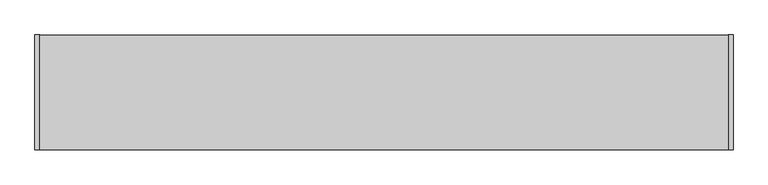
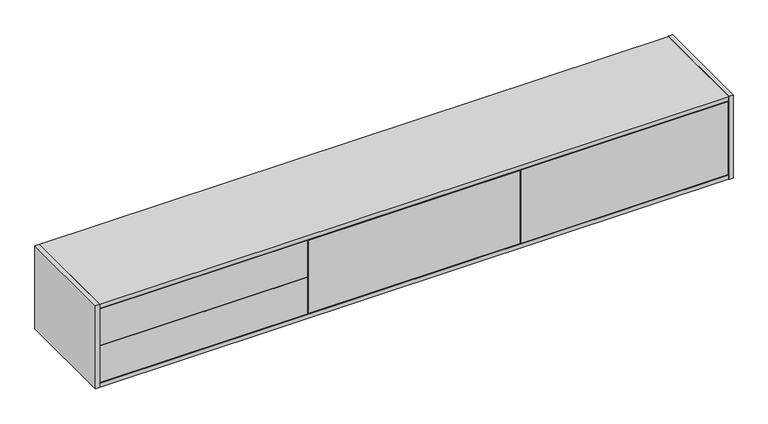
"""IFC4 building model written with IfcOpenShell, lengths in millimetres: furniture geometry, Geiger_GeigerOneCasegoods_HangingStorageThreeSections : TFL 108Wx18Dx14.875H."""

from ifc_helpers import new_model, si_unit, frame, origin, origin_with_axes, place, context, project, spatial, polyline, outline, extrude, source, transform, mapped, element, save


def furniture_86b5e4a5(model_context):
    return source(origin(), model_context, "Body", "SweptSolid", [
        extrude(outline(polyline([(2718.9881423, -431.1), (2718.9881423, -450.1), (1827.5059289, -450.1), (1827.5059289, -431.1), (2718.9881423, -431.1)])), frame((0.0, 0.0, 22.5118577), z_axis=(0.0, 0.0, 1.0), x_axis=(1.0, 0.0, 0.0)), (0.0, 0.0, 1.0), 332.8078846),
        extrude(outline(polyline([(1824.4940711, -431.1), (1824.4940711, -450.1), (914.5059289, -450.1), (914.5059289, -431.1), (1824.4940711, -431.1)])), frame((0.0, 0.0, 22.5118577), z_axis=(0.0, 0.0, 1.0), x_axis=(1.0, 0.0, 0.0)), (0.0, 0.0, 1.0), 332.8078846),
        extrude(outline(polyline([(911.4940711, -431.1), (911.4940711, -450.1), (22.0118577, -450.1), (22.0118577, -431.1), (911.4940711, -431.1)])), frame((0.0, 0.0, 22.5118577), z_axis=(0.0, 0.0, 1.0), x_axis=(1.0, 0.0, 0.0)), (0.0, 0.0, 1.0), 165.4822134),
        extrude(outline(polyline([(911.4940711, -431.1), (911.4940711, -450.1), (22.0118577, -450.1), (22.0118577, -431.1), (911.4940711, -431.1)])), frame((0.0, 0.0, 191.0059289), z_axis=(0.0, 0.0, 1.0), x_axis=(1.0, 0.0, 0.0)), (0.0, 0.0, 1.0), 164.3138134),
        extrude(outline(polyline([(932.0, -435.0), (913.0, -435.0), (913.0, -38.5), (932.0, -38.5), (932.0, -435.0)])), frame((0.0, 0.0, 19.5), z_axis=(0.0, 0.0, 1.0), x_axis=(1.0, 0.0, 0.0)), (0.0, 0.0, 1.0), 338.8316),
        extrude(outline(polyline([(1827.9902, -435.0), (1808.9902, -435.0), (1808.9902, -38.5), (1827.9902, -38.5), (1827.9902, -435.0)])), frame((0.0, 0.0, 19.5), z_axis=(0.0, 0.0, 1.0), x_axis=(1.0, 0.0, 0.0)), (0.0, 0.0, 1.0), 338.8316),
        extrude(outline(polyline([(913.0, -435.0), (894.0, -435.0), (894.0, -38.5), (913.0, -38.5), (913.0, -435.0)])), frame((0.0, 0.0, 19.5), z_axis=(0.0, 0.0, 1.0), x_axis=(1.0, 0.0, 0.0)), (0.0, 0.0, 1.0), 338.8316),
        extrude(outline(polyline([(1846.9902, -435.0), (1827.9902, -435.0), (1827.9902, -38.5), (1846.9902, -38.5), (1846.9902, -435.0)])), frame((0.0, 0.0, 19.5), z_axis=(0.0, 0.0, 1.0), x_axis=(1.0, 0.0, 0.0)), (0.0, 0.0, 1.0), 338.8316),
        extrude(outline(polyline([(2721.9902, -20.0), (2721.9902, -32.5), (2727.9902, -32.5), (2727.9902, -38.5), (13.0, -38.5), (13.0, -32.5), (19.0000031, -32.5), (19.0000031, -20.0), (2721.9902, -20.0)])), frame((0.0, 0.0, 13.5), z_axis=(0.0, 0.0, 1.0), x_axis=(1.0, 0.0, 0.0)), (0.0, 0.0, 1.0), 358.3316),
        extrude(outline(polyline([(2721.9902, -0.5), (2721.9902, -19.5), (19.0000031, -19.5), (19.0000031, -0.5), (2721.9902, -0.5)])), frame((0.0, 0.0, 19.5), z_axis=(0.0, 0.0, 1.0), x_axis=(1.0, 0.0, 0.0)), (0.0, 0.0, 1.0), 83.0),
        extrude(outline(polyline([(2721.9902, -450.1), (19.0000031, -450.1), (19.0000031, -0.5), (2721.9902, -0.5), (2721.9902, -450.1)])), frame((0.0, 0.0, 358.3316), z_axis=(0.0, 0.0, 1.0), x_axis=(1.0, 0.0, 0.0)), (0.0, 0.0, 1.0), 19.0),
        extrude(outline(polyline([(2721.9902, -450.1), (19.0000031, -450.1), (19.0000031, -0.5), (2721.9902, -0.5), (2721.9902, -450.1)])), frame((0.0, 0.0, 0.5), z_axis=(0.0, 0.0, 1.0), x_axis=(1.0, 0.0, 0.0)), (0.0, 0.0, 1.0), 19.0),
        extrude(outline(polyline([(19.0000031, -450.6), (0.0, -450.6), (0.0, 0.0), (19.0000031, 0.0), (19.0000031, -450.6)])), origin_with_axes(), (0.0, 0.0, 1.0), 377.825),
        extrude(outline(polyline([(2740.9902, -450.6), (2721.9902, -450.6), (2721.9902, 0.0), (2740.9902, 0.0), (2740.9902, -450.6)])), origin_with_axes(), (0.0, 0.0, 1.0), 377.825),
    ])


if __name__ == "__main__":
    model = new_model("IFC4")
    model_context = context("Model", 3, world=origin())
    ifc_project = project(units=[si_unit("LENGTHUNIT", "METRE", prefix="MILLI")], contexts=[model_context])
    site = spatial("IfcSite", under=ifc_project)
    building = spatial("IfcBuilding", under=site)
    placement = place(None, origin())
    furniture_shape = furniture_86b5e4a5(model_context)
    element("IfcFurniture", 1, ObjectType="Geiger_GeigerOneCasegoods_HangingStorageThreeSections : TFL 108Wx18Dx14.875H", at=placement, inside=building, context=model_context, shape_type="MappedRepresentation", body=[
        mapped(furniture_shape, transform((0.0, 0.0, 0.0), x_axis=(1.0, 0.0, 0.0), y_axis=(0.0, 1.0, 0.0), z_axis=(0.0, 0.0, 1.0))),
    ])
    save(model, "model.ifc")
